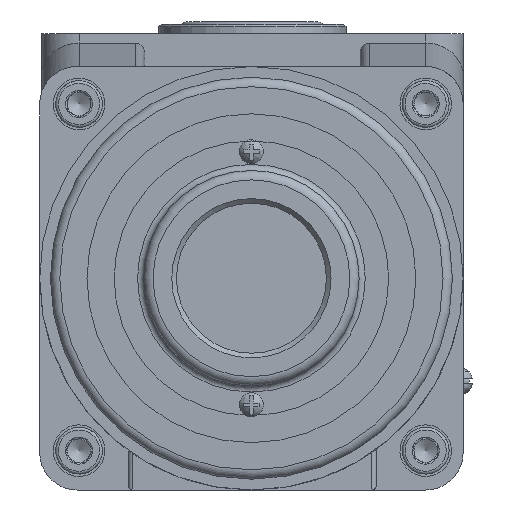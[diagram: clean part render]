
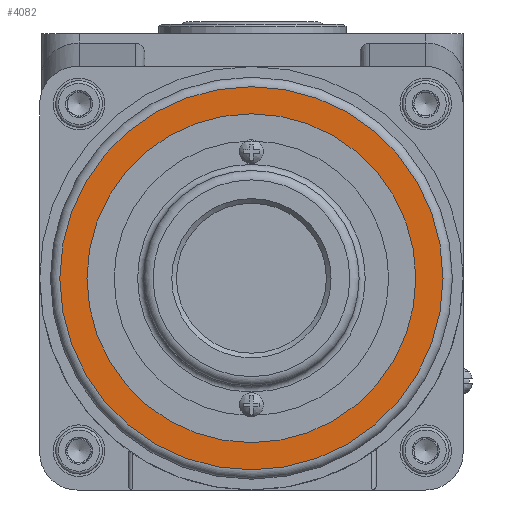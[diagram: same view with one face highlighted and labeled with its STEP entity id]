
A CAD part, front view. The second image highlights one B-rep face of the part: STEP entity #4082.
In plain terms, the highlighted planar face has unit normal (0, -1, 0).
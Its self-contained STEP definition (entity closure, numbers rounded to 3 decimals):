
#4082=ADVANCED_FACE('',(#4777,#4778),#4430,.F.);
#4430=PLANE('',#12540);
#4777=FACE_BOUND('',#5583,.T.);
#4778=FACE_BOUND('',#5584,.T.);
#5583=EDGE_LOOP('',(#8210));
#5584=EDGE_LOOP('',(#8211));
#8210=ORIENTED_EDGE('',*,*,#10551,.F.);
#8211=ORIENTED_EDGE('',*,*,#10497,.T.);
#9171=VERTEX_POINT('',#19429);
#9212=VERTEX_POINT('',#19552);
#10497=EDGE_CURVE('',#9171,#9171,#11123,.T.);
#10551=EDGE_CURVE('',#9212,#9212,#11157,.T.);
#11123=CIRCLE('',#12476,40.9);
#11157=CIRCLE('',#12538,35.1);
#12476=AXIS2_PLACEMENT_3D('',#19428,#15369,#15370);
#12538=AXIS2_PLACEMENT_3D('',#19551,#15513,#15514);
#12540=AXIS2_PLACEMENT_3D('',#19554,#15517,#15518);
#15369=DIRECTION('',(0.,-1.,0.));
#15370=DIRECTION('',(-1.,0.,0.));
#15513=DIRECTION('',(0.,-1.,0.));
#15514=DIRECTION('',(1.,0.,0.));
#15517=DIRECTION('',(0.,1.,0.));
#15518=DIRECTION('',(-1.,0.,0.));
#19428=CARTESIAN_POINT('',(-0.2,-198.5,-52.2));
#19429=CARTESIAN_POINT('',(-41.1,-198.5,-52.2));
#19551=CARTESIAN_POINT('',(-0.2,-198.5,-52.2));
#19552=CARTESIAN_POINT('',(34.9,-198.5,-52.2));
#19554=CARTESIAN_POINT('',(-0.2,-198.5,-9.3));
